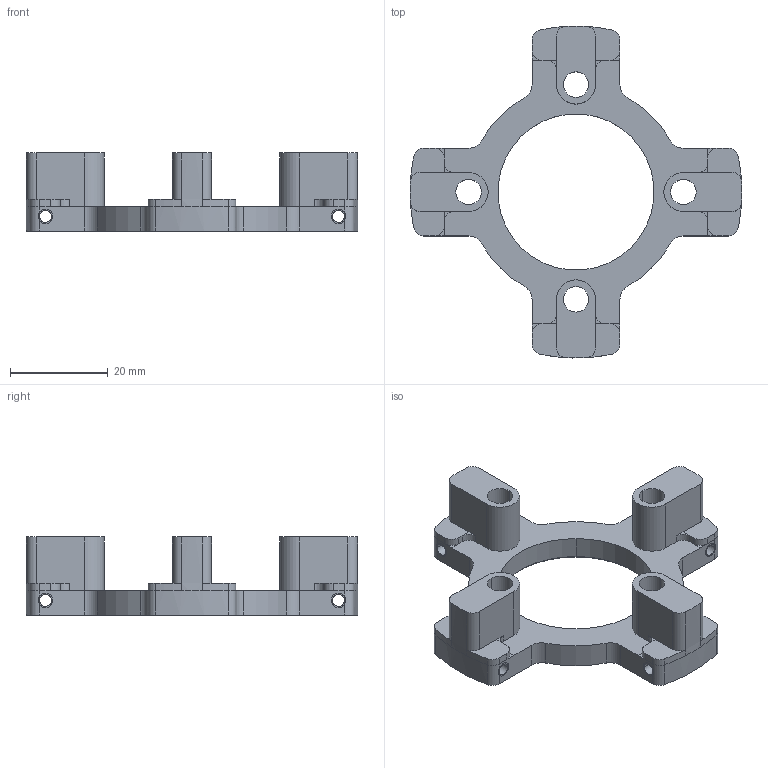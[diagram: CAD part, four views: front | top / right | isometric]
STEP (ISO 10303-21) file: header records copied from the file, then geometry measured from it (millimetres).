
FILE_DESCRIPTION(/* description */ ('(C) Elphel, Inc. 2012. Licensed under CERN OHL v.1.1 or later, see http://ohwr.org/cernohl'),/* implementation_level */ '2;1');
FILE_NAME(/* name */ '0353-19-80A',/* time_stamp */ '2012-04-03T21:04:38-06:00',/* author */ (''),/* organization */ ('Elphel, Inc'),/* preprocessor_version */ 'ST-DEVELOPER v12',/* originating_system */ 'VariCAD 2012-1.04; kernel version (20100102)',/* authorisation */ '');
FILE_SCHEMA (('AUTOMOTIVE_DESIGN'));
Length unit declared in the file: millimetre
Products named in the file (1): Part
Bounding box: 67.99 x 67.99 x 16 mm (x, y, z)
Volume: 9680.5 mm3; surface area: 10091.9 mm2
Topology: 9 solids, 9 shells, 250 faces, 718 edges, 462 vertices
Faces by surface type: cylinder 170, plane 78, cone 2
Entity records: 9095 total; most frequent: CARTESIAN_POINT 2448, ORIENTED_EDGE 1436, DIRECTION 1328, EDGE_CURVE 718, AXIS2_PLACEMENT_3D 494, VERTEX_POINT 462, LINE 340, VECTOR 340
